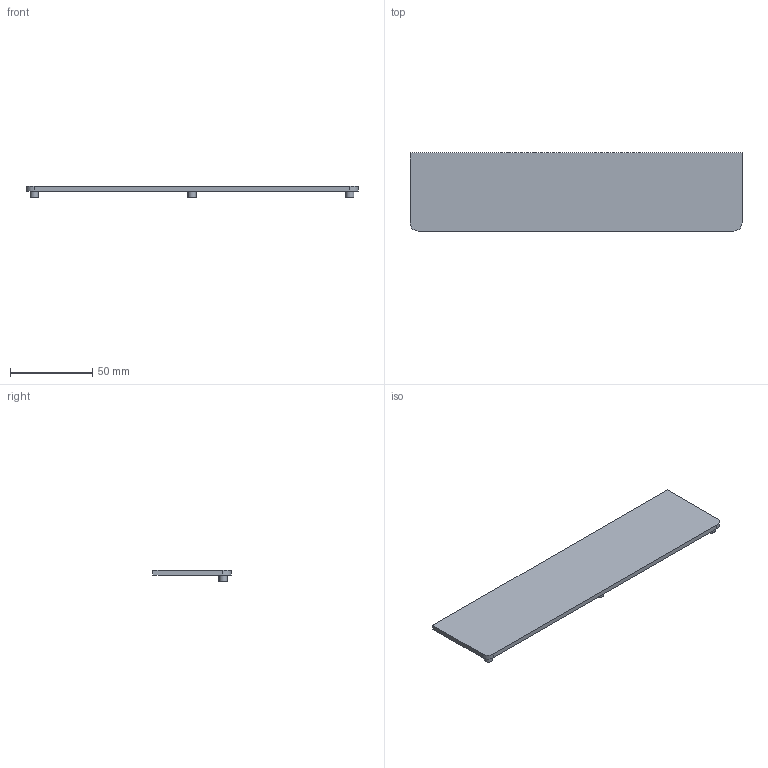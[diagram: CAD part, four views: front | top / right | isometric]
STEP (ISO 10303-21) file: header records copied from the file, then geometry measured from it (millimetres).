
FILE_DESCRIPTION(/* description */ (''),/* implementation_level */ '2;1');
FILE_NAME(/* name */ 'C:\Users\Karol\Documents\Inventor\gniazdo_desktop\Desk_Protection_Pad.stp',/* time_stamp */ '2026-03-14T22:26:17+01:00',/* author */ ('Karol'),/* organization */ (''),/* preprocessor_version */ 'ST-DEVELOPER v16.1',/* originating_system */ 'Autodesk Inventor 2016',/* authorisation */ '');
FILE_SCHEMA (('AUTOMOTIVE_DESIGN { 1 0 10303 214 3 1 1 }'));
Length unit declared in the file: millimetre
Products named in the file (1): plyta_docisowa
Bounding box: 201.44 x 47.4 x 6.8 mm (x, y, z)
Volume: 26931.5 mm3; surface area: 20641.4 mm2
Topology: 1 solids, 1 shells, 14 faces, 27 edges, 18 vertices
Faces by surface type: plane 9, cylinder 5
Full cylindrical faces by diameter (mm): 4.9 x3
Entity records: 370 total; most frequent: DIRECTION 64, CARTESIAN_POINT 57, ORIENTED_EDGE 48, AXIS2_PLACEMENT_3D 25, EDGE_CURVE 24, EDGE_LOOP 20, VERTEX_POINT 18, LINE 14
